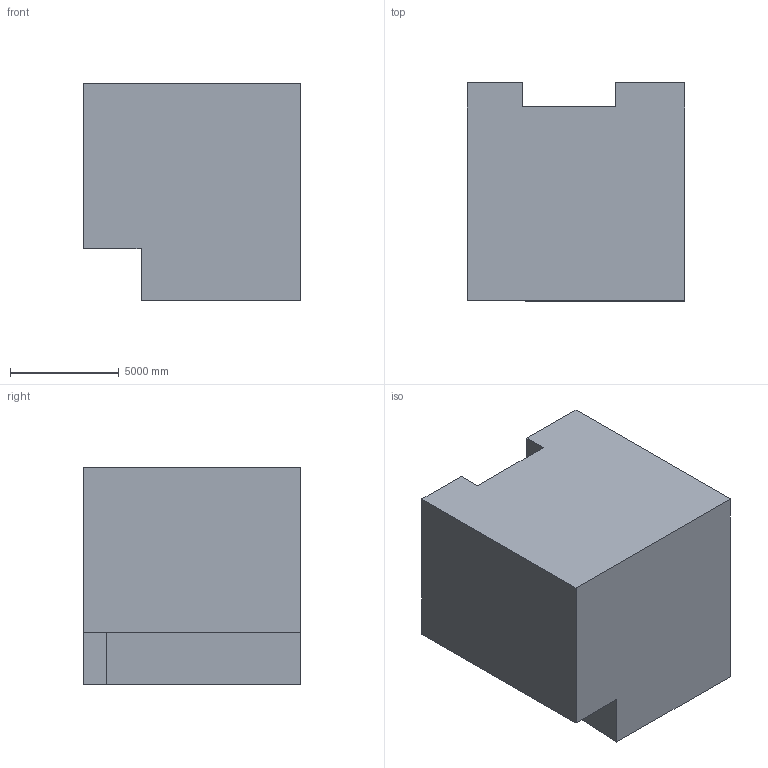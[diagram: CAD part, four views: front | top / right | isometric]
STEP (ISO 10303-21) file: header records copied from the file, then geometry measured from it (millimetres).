
FILE_DESCRIPTION (( 'STEP AP203' ), '1' );
FILE_NAME ('105.STEP', '2022-07-28T13:37:40', ( 'user' ), ( '' ), 'SwSTEP 2.0', 'SolidWorks 2021', '' );
FILE_SCHEMA (( 'CONFIG_CONTROL_DESIGN' ));
Length unit declared in the file: centimetre
Products named in the file (1): 105
Bounding box: 10000 x 10000 x 10000 mm (x, y, z)
Volume: 885654146451.5 mm3; surface area: 593090422.6 mm2
Topology: 1 solids, 1 shells, 12 faces, 30 edges, 20 vertices
Faces by surface type: plane 12
Entity records: 431 total; most frequent: CARTESIAN_POINT 63, ORIENTED_EDGE 60, DIRECTION 56, EDGE_CURVE 30, VECTOR 30, LINE 30, VERTEX_POINT 20, AXIS2_PLACEMENT_3D 13
